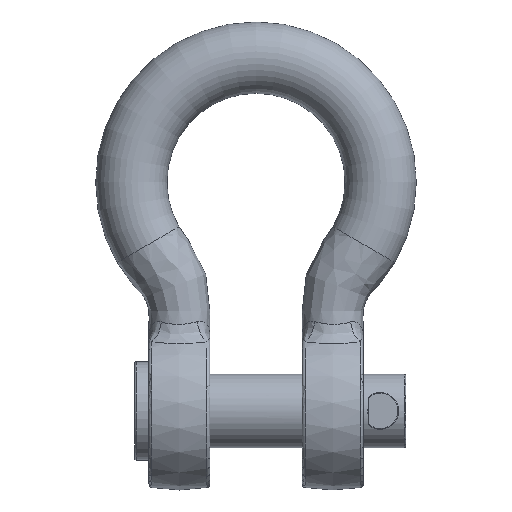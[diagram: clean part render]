
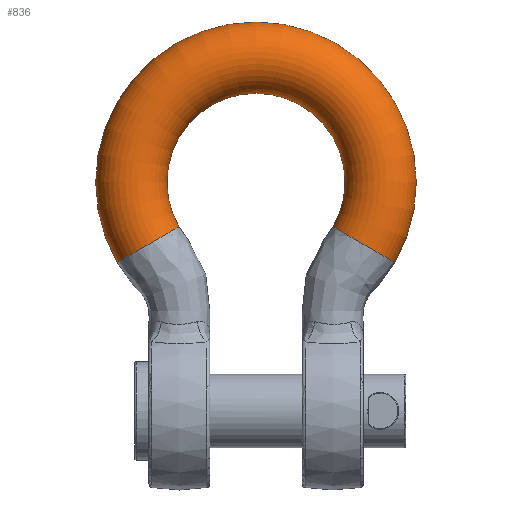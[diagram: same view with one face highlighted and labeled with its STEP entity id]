
A CAD part, top view. The second image highlights one B-rep face of the part: STEP entity #836.
In plain terms, the highlighted toroidal (fillet/blend) face has major radius 162.5 mm and minor radius 46.5 mm.
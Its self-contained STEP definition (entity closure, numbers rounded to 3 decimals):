
#68=TOROIDAL_SURFACE('',#980,162.5,46.5);
#137=CIRCLE('',#981,46.5);
#138=CIRCLE('',#982,46.5);
#139=CIRCLE('',#983,116.);
#140=CIRCLE('',#984,46.5);
#141=CIRCLE('',#985,46.5);
#201=FACE_OUTER_BOUND('',#251,.T.);
#251=EDGE_LOOP('',(#698,#699,#700,#701,#702,#703));
#378=VERTEX_POINT('',#3421);
#379=VERTEX_POINT('',#3422);
#380=VERTEX_POINT('',#3425);
#381=VERTEX_POINT('',#3427);
#492=EDGE_CURVE('',#378,#379,#137,.T.);
#493=EDGE_CURVE('',#379,#378,#138,.T.);
#494=EDGE_CURVE('',#379,#380,#139,.T.);
#495=EDGE_CURVE('',#380,#381,#140,.T.);
#496=EDGE_CURVE('',#381,#380,#141,.T.);
#698=ORIENTED_EDGE('',*,*,#492,.F.);
#699=ORIENTED_EDGE('',*,*,#493,.F.);
#700=ORIENTED_EDGE('',*,*,#494,.T.);
#701=ORIENTED_EDGE('',*,*,#495,.T.);
#702=ORIENTED_EDGE('',*,*,#496,.T.);
#703=ORIENTED_EDGE('',*,*,#494,.F.);
#836=ADVANCED_FACE('',(#201),#68,.T.);
#980=AXIS2_PLACEMENT_3D('',#3420,#1141,#1142);
#981=AXIS2_PLACEMENT_3D('',#3423,#1143,#1144);
#982=AXIS2_PLACEMENT_3D('',#3424,#1145,#1146);
#983=AXIS2_PLACEMENT_3D('',#3426,#1147,#1148);
#984=AXIS2_PLACEMENT_3D('',#3428,#1149,#1150);
#985=AXIS2_PLACEMENT_3D('',#3429,#1151,#1152);
#1141=DIRECTION('center_axis',(0.,0.,1.));
#1142=DIRECTION('ref_axis',(0.,1.,0.));
#1143=DIRECTION('center_axis',(0.5,-0.866,0.));
#1144=DIRECTION('ref_axis',(-0.866,-0.5,0.));
#1145=DIRECTION('center_axis',(0.5,-0.866,0.));
#1146=DIRECTION('ref_axis',(-0.866,-0.5,0.));
#1147=DIRECTION('center_axis',(0.,0.,-1.));
#1148=DIRECTION('ref_axis',(0.,1.,0.));
#1149=DIRECTION('center_axis',(0.5,0.866,0.));
#1150=DIRECTION('ref_axis',(0.866,-0.5,0.));
#1151=DIRECTION('center_axis',(0.5,0.866,0.));
#1152=DIRECTION('ref_axis',(0.866,-0.5,0.));
#3420=CARTESIAN_POINT('Origin',(0.,298.,0.));
#3421=CARTESIAN_POINT('',(-180.999,193.5,0.));
#3422=CARTESIAN_POINT('',(-100.459,240.,0.));
#3423=CARTESIAN_POINT('Origin',(-140.729,216.75,0.));
#3424=CARTESIAN_POINT('Origin',(-140.729,216.75,0.));
#3425=CARTESIAN_POINT('',(100.459,240.,0.));
#3426=CARTESIAN_POINT('Origin',(0.,298.,0.));
#3427=CARTESIAN_POINT('',(180.999,193.5,0.));
#3428=CARTESIAN_POINT('Origin',(140.729,216.75,0.));
#3429=CARTESIAN_POINT('Origin',(140.729,216.75,0.));
